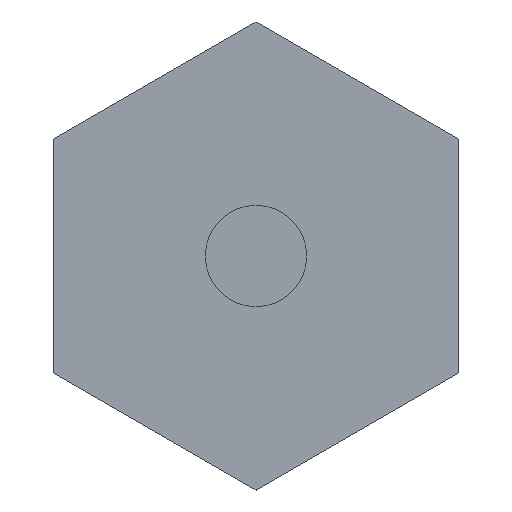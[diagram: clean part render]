
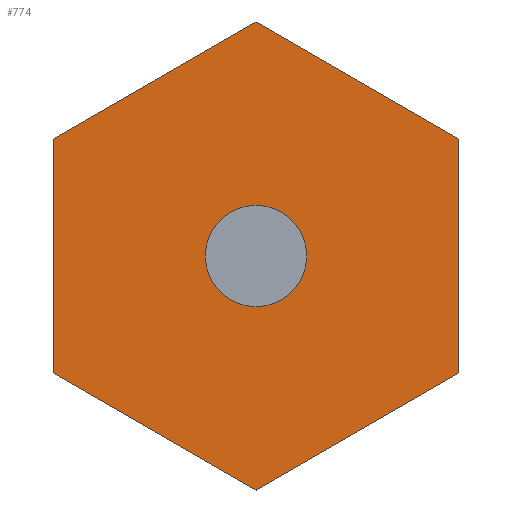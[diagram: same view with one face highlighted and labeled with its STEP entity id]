
A CAD part, front view. The second image highlights one B-rep face of the part: STEP entity #774.
In plain terms, the highlighted planar face has unit normal (0, -1, 0).
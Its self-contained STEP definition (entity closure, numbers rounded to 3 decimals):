
#323 = PLANE('',#324);
#324 = AXIS2_PLACEMENT_3D('',#325,#326,#327);
#325 = CARTESIAN_POINT('',(0.,-72.,93.072));
#326 = DIRECTION('',(-0.5,0.,0.866));
#327 = DIRECTION('',(0.866,0.,0.5));
#351 = PLANE('',#352);
#352 = AXIS2_PLACEMENT_3D('',#353,#354,#355);
#353 = CARTESIAN_POINT('',(6.,-72.,96.536));
#354 = DIRECTION('',(-1.,0.,0.));
#355 = DIRECTION('',(0.,0.,1.));
#379 = PLANE('',#380);
#380 = AXIS2_PLACEMENT_3D('',#381,#382,#383);
#381 = CARTESIAN_POINT('',(6.,-72.,103.464));
#382 = DIRECTION('',(-0.5,0.,-0.866));
#383 = DIRECTION('',(-0.866,0.,0.5));
#407 = PLANE('',#408);
#408 = AXIS2_PLACEMENT_3D('',#409,#410,#411);
#409 = CARTESIAN_POINT('',(0.,-72.,106.928));
#410 = DIRECTION('',(0.5,0.,-0.866));
#411 = DIRECTION('',(-0.866,0.,-0.5));
#435 = PLANE('',#436);
#436 = AXIS2_PLACEMENT_3D('',#437,#438,#439);
#437 = CARTESIAN_POINT('',(-6.,-72.,103.464));
#438 = DIRECTION('',(1.,0.,0.));
#439 = DIRECTION('',(0.,0.,-1.));
#461 = PLANE('',#462);
#462 = AXIS2_PLACEMENT_3D('',#463,#464,#465);
#463 = CARTESIAN_POINT('',(-6.,-72.,96.536));
#464 = DIRECTION('',(0.5,0.,0.866));
#465 = DIRECTION('',(0.866,0.,-0.5));
#480 = VERTEX_POINT('',#481);
#481 = CARTESIAN_POINT('',(0.,-77.,93.072));
#502 = EDGE_CURVE('',#480,#503,#505,.T.);
#503 = VERTEX_POINT('',#504);
#504 = CARTESIAN_POINT('',(6.,-77.,96.536));
#505 = SURFACE_CURVE('',#506,(#510,#517),.PCURVE_S1.);
#506 = LINE('',#507,#508);
#507 = CARTESIAN_POINT('',(0.,-77.,93.072));
#508 = VECTOR('',#509,1.);
#509 = DIRECTION('',(0.866,0.,0.5));
#510 = PCURVE('',#323,#511);
#511 = DEFINITIONAL_REPRESENTATION('',(#512),#516);
#512 = LINE('',#513,#514);
#513 = CARTESIAN_POINT('',(0.,-5.));
#514 = VECTOR('',#515,1.);
#515 = DIRECTION('',(1.,0.));
#516 = ( GEOMETRIC_REPRESENTATION_CONTEXT(2) 
PARAMETRIC_REPRESENTATION_CONTEXT() REPRESENTATION_CONTEXT('2D SPACE',''
  ) );
#517 = PCURVE('',#518,#523);
#518 = PLANE('',#519);
#519 = AXIS2_PLACEMENT_3D('',#520,#521,#522);
#520 = CARTESIAN_POINT('',(0.,-77.,100.));
#521 = DIRECTION('',(0.,-1.,0.));
#522 = DIRECTION('',(0.,0.,-1.));
#523 = DEFINITIONAL_REPRESENTATION('',(#524),#528);
#524 = LINE('',#525,#526);
#525 = CARTESIAN_POINT('',(6.928,0.));
#526 = VECTOR('',#527,1.);
#527 = DIRECTION('',(-0.5,0.866));
#528 = ( GEOMETRIC_REPRESENTATION_CONTEXT(2) 
PARAMETRIC_REPRESENTATION_CONTEXT() REPRESENTATION_CONTEXT('2D SPACE',''
  ) );
#556 = VERTEX_POINT('',#557);
#557 = CARTESIAN_POINT('',(-6.,-77.,96.536));
#578 = EDGE_CURVE('',#556,#480,#579,.T.);
#579 = SURFACE_CURVE('',#580,(#584,#591),.PCURVE_S1.);
#580 = LINE('',#581,#582);
#581 = CARTESIAN_POINT('',(-6.,-77.,96.536));
#582 = VECTOR('',#583,1.);
#583 = DIRECTION('',(0.866,0.,-0.5));
#584 = PCURVE('',#461,#585);
#585 = DEFINITIONAL_REPRESENTATION('',(#586),#590);
#586 = LINE('',#587,#588);
#587 = CARTESIAN_POINT('',(0.,-5.));
#588 = VECTOR('',#589,1.);
#589 = DIRECTION('',(1.,0.));
#590 = ( GEOMETRIC_REPRESENTATION_CONTEXT(2) 
PARAMETRIC_REPRESENTATION_CONTEXT() REPRESENTATION_CONTEXT('2D SPACE',''
  ) );
#591 = PCURVE('',#518,#592);
#592 = DEFINITIONAL_REPRESENTATION('',(#593),#597);
#593 = LINE('',#594,#595);
#594 = CARTESIAN_POINT('',(3.464,-6.));
#595 = VECTOR('',#596,1.);
#596 = DIRECTION('',(0.5,0.866));
#597 = ( GEOMETRIC_REPRESENTATION_CONTEXT(2) 
PARAMETRIC_REPRESENTATION_CONTEXT() REPRESENTATION_CONTEXT('2D SPACE',''
  ) );
#605 = EDGE_CURVE('',#503,#606,#608,.T.);
#606 = VERTEX_POINT('',#607);
#607 = CARTESIAN_POINT('',(6.,-77.,103.464));
#608 = SURFACE_CURVE('',#609,(#613,#620),.PCURVE_S1.);
#609 = LINE('',#610,#611);
#610 = CARTESIAN_POINT('',(6.,-77.,96.536));
#611 = VECTOR('',#612,1.);
#612 = DIRECTION('',(0.,0.,1.));
#613 = PCURVE('',#351,#614);
#614 = DEFINITIONAL_REPRESENTATION('',(#615),#619);
#615 = LINE('',#616,#617);
#616 = CARTESIAN_POINT('',(0.,-5.));
#617 = VECTOR('',#618,1.);
#618 = DIRECTION('',(1.,0.));
#619 = ( GEOMETRIC_REPRESENTATION_CONTEXT(2) 
PARAMETRIC_REPRESENTATION_CONTEXT() REPRESENTATION_CONTEXT('2D SPACE',''
  ) );
#620 = PCURVE('',#518,#621);
#621 = DEFINITIONAL_REPRESENTATION('',(#622),#626);
#622 = LINE('',#623,#624);
#623 = CARTESIAN_POINT('',(3.464,6.));
#624 = VECTOR('',#625,1.);
#625 = DIRECTION('',(-1.,0.));
#626 = ( GEOMETRIC_REPRESENTATION_CONTEXT(2) 
PARAMETRIC_REPRESENTATION_CONTEXT() REPRESENTATION_CONTEXT('2D SPACE',''
  ) );
#654 = VERTEX_POINT('',#655);
#655 = CARTESIAN_POINT('',(-6.,-77.,103.464));
#676 = EDGE_CURVE('',#654,#556,#677,.T.);
#677 = SURFACE_CURVE('',#678,(#682,#689),.PCURVE_S1.);
#678 = LINE('',#679,#680);
#679 = CARTESIAN_POINT('',(-6.,-77.,103.464));
#680 = VECTOR('',#681,1.);
#681 = DIRECTION('',(0.,0.,-1.));
#682 = PCURVE('',#435,#683);
#683 = DEFINITIONAL_REPRESENTATION('',(#684),#688);
#684 = LINE('',#685,#686);
#685 = CARTESIAN_POINT('',(0.,-5.));
#686 = VECTOR('',#687,1.);
#687 = DIRECTION('',(1.,0.));
#688 = ( GEOMETRIC_REPRESENTATION_CONTEXT(2) 
PARAMETRIC_REPRESENTATION_CONTEXT() REPRESENTATION_CONTEXT('2D SPACE',''
  ) );
#689 = PCURVE('',#518,#690);
#690 = DEFINITIONAL_REPRESENTATION('',(#691),#695);
#691 = LINE('',#692,#693);
#692 = CARTESIAN_POINT('',(-3.464,-6.));
#693 = VECTOR('',#694,1.);
#694 = DIRECTION('',(1.,0.));
#695 = ( GEOMETRIC_REPRESENTATION_CONTEXT(2) 
PARAMETRIC_REPRESENTATION_CONTEXT() REPRESENTATION_CONTEXT('2D SPACE',''
  ) );
#703 = EDGE_CURVE('',#606,#704,#706,.T.);
#704 = VERTEX_POINT('',#705);
#705 = CARTESIAN_POINT('',(0.,-77.,106.928));
#706 = SURFACE_CURVE('',#707,(#711,#718),.PCURVE_S1.);
#707 = LINE('',#708,#709);
#708 = CARTESIAN_POINT('',(6.,-77.,103.464));
#709 = VECTOR('',#710,1.);
#710 = DIRECTION('',(-0.866,0.,0.5));
#711 = PCURVE('',#379,#712);
#712 = DEFINITIONAL_REPRESENTATION('',(#713),#717);
#713 = LINE('',#714,#715);
#714 = CARTESIAN_POINT('',(0.,-5.));
#715 = VECTOR('',#716,1.);
#716 = DIRECTION('',(1.,0.));
#717 = ( GEOMETRIC_REPRESENTATION_CONTEXT(2) 
PARAMETRIC_REPRESENTATION_CONTEXT() REPRESENTATION_CONTEXT('2D SPACE',''
  ) );
#718 = PCURVE('',#518,#719);
#719 = DEFINITIONAL_REPRESENTATION('',(#720),#724);
#720 = LINE('',#721,#722);
#721 = CARTESIAN_POINT('',(-3.464,6.));
#722 = VECTOR('',#723,1.);
#723 = DIRECTION('',(-0.5,-0.866));
#724 = ( GEOMETRIC_REPRESENTATION_CONTEXT(2) 
PARAMETRIC_REPRESENTATION_CONTEXT() REPRESENTATION_CONTEXT('2D SPACE',''
  ) );
#752 = EDGE_CURVE('',#704,#654,#753,.T.);
#753 = SURFACE_CURVE('',#754,(#758,#765),.PCURVE_S1.);
#754 = LINE('',#755,#756);
#755 = CARTESIAN_POINT('',(0.,-77.,106.928));
#756 = VECTOR('',#757,1.);
#757 = DIRECTION('',(-0.866,0.,-0.5));
#758 = PCURVE('',#407,#759);
#759 = DEFINITIONAL_REPRESENTATION('',(#760),#764);
#760 = LINE('',#761,#762);
#761 = CARTESIAN_POINT('',(0.,-5.));
#762 = VECTOR('',#763,1.);
#763 = DIRECTION('',(1.,0.));
#764 = ( GEOMETRIC_REPRESENTATION_CONTEXT(2) 
PARAMETRIC_REPRESENTATION_CONTEXT() REPRESENTATION_CONTEXT('2D SPACE',''
  ) );
#765 = PCURVE('',#518,#766);
#766 = DEFINITIONAL_REPRESENTATION('',(#767),#771);
#767 = LINE('',#768,#769);
#768 = CARTESIAN_POINT('',(-6.928,0.));
#769 = VECTOR('',#770,1.);
#770 = DIRECTION('',(0.5,-0.866));
#771 = ( GEOMETRIC_REPRESENTATION_CONTEXT(2) 
PARAMETRIC_REPRESENTATION_CONTEXT() REPRESENTATION_CONTEXT('2D SPACE',''
  ) );
#774 = ADVANCED_FACE('',(#775,#783),#518,.T.);
#775 = FACE_BOUND('',#776,.T.);
#776 = EDGE_LOOP('',(#777,#778,#779,#780,#781,#782));
#777 = ORIENTED_EDGE('',*,*,#502,.T.);
#778 = ORIENTED_EDGE('',*,*,#605,.T.);
#779 = ORIENTED_EDGE('',*,*,#703,.T.);
#780 = ORIENTED_EDGE('',*,*,#752,.T.);
#781 = ORIENTED_EDGE('',*,*,#676,.T.);
#782 = ORIENTED_EDGE('',*,*,#578,.T.);
#783 = FACE_BOUND('',#784,.T.);
#784 = EDGE_LOOP('',(#785));
#785 = ORIENTED_EDGE('',*,*,#786,.F.);
#786 = EDGE_CURVE('',#787,#787,#789,.T.);
#787 = VERTEX_POINT('',#788);
#788 = CARTESIAN_POINT('',(0.,-77.,98.5));
#789 = SURFACE_CURVE('',#790,(#795,#802),.PCURVE_S1.);
#790 = CIRCLE('',#791,1.5);
#791 = AXIS2_PLACEMENT_3D('',#792,#793,#794);
#792 = CARTESIAN_POINT('',(0.,-77.,100.));
#793 = DIRECTION('',(0.,-1.,0.));
#794 = DIRECTION('',(0.,0.,-1.));
#795 = PCURVE('',#518,#796);
#796 = DEFINITIONAL_REPRESENTATION('',(#797),#801);
#797 = CIRCLE('',#798,1.5);
#798 = AXIS2_PLACEMENT_2D('',#799,#800);
#799 = CARTESIAN_POINT('',(0.,0.));
#800 = DIRECTION('',(1.,0.));
#801 = ( GEOMETRIC_REPRESENTATION_CONTEXT(2) 
PARAMETRIC_REPRESENTATION_CONTEXT() REPRESENTATION_CONTEXT('2D SPACE',''
  ) );
#802 = PCURVE('',#803,#808);
#803 = CYLINDRICAL_SURFACE('',#804,1.5);
#804 = AXIS2_PLACEMENT_3D('',#805,#806,#807);
#805 = CARTESIAN_POINT('',(0.,-77.,100.));
#806 = DIRECTION('',(0.,1.,0.));
#807 = DIRECTION('',(0.,0.,-1.));
#808 = DEFINITIONAL_REPRESENTATION('',(#809),#813);
#809 = LINE('',#810,#811);
#810 = CARTESIAN_POINT('',(-0.,0.));
#811 = VECTOR('',#812,1.);
#812 = DIRECTION('',(-1.,0.));
#813 = ( GEOMETRIC_REPRESENTATION_CONTEXT(2) 
PARAMETRIC_REPRESENTATION_CONTEXT() REPRESENTATION_CONTEXT('2D SPACE',''
  ) );
